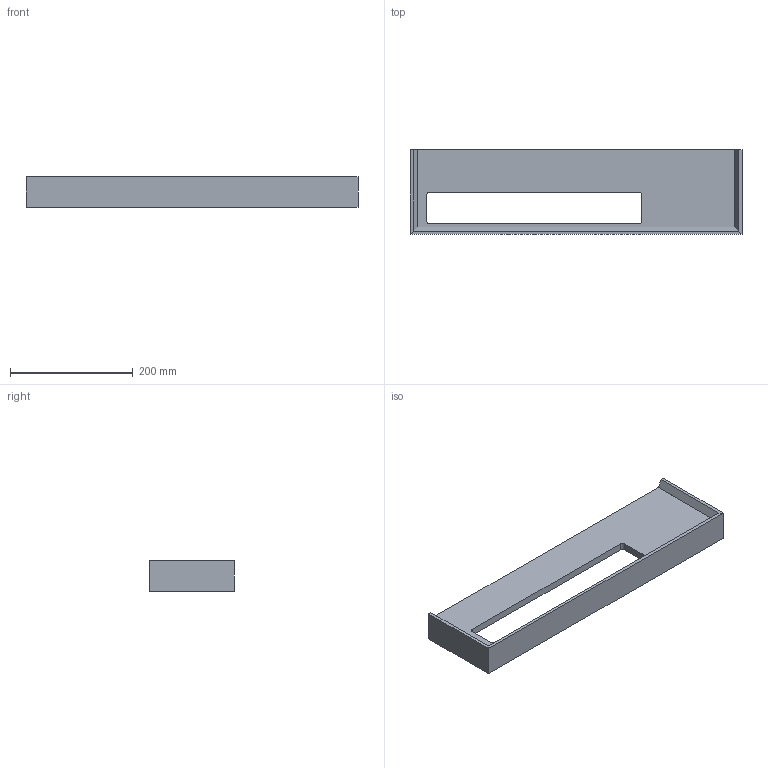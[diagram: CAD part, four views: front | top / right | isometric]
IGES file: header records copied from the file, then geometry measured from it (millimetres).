
Start section: Data from Parasolid IGES Translator 22.0.50, Copyright(c) 2006 Siemens P LM Software. All Rights Reserved.
Global section: file name: noorth-haus-H 5 D 13 W 54_4059.igs; native system: By Siemens PLM Incorporated; preprocessor: XPlus GENERIC/IGES 22.0.50; author: Noname; organization: Noname; date: 20251207.155546; units: metre
Bounding box: 540 x 138 x 50 mm (x, y, z)
Volume: 1004940.4 mm3; surface area: 217312.6 mm2
Topology: 4 solids, 4 shells, 35 faces, 81 edges, 54 vertices
Faces by surface type: plane 31, cylinder 4
